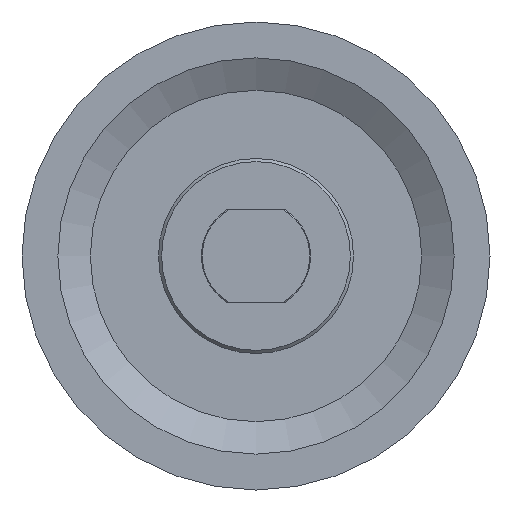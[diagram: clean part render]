
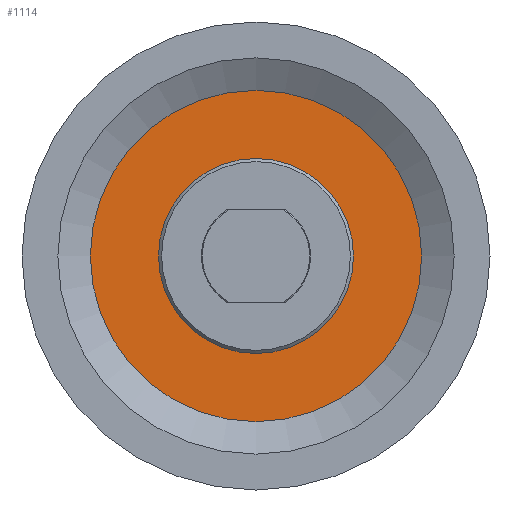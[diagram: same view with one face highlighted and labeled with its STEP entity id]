
A CAD part, left-side view. The second image highlights one B-rep face of the part: STEP entity #1114.
In plain terms, the highlighted planar face has unit normal (-1, 0, 0).
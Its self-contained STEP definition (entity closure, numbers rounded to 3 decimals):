
#93=FACE_BOUND('',#352,.T.);
#107=PLANE('',#1371);
#281=FACE_OUTER_BOUND('',#351,.T.);
#351=EDGE_LOOP('',(#856,#857));
#352=EDGE_LOOP('',(#858,#859));
#454=CIRCLE('',#1368,62.5);
#455=CIRCLE('',#1369,62.5);
#456=CIRCLE('',#1372,106.215);
#457=CIRCLE('',#1373,106.215);
#540=VERTEX_POINT('',#1974);
#541=VERTEX_POINT('',#1975);
#542=VERTEX_POINT('',#1982);
#543=VERTEX_POINT('',#1983);
#658=EDGE_CURVE('',#540,#541,#454,.T.);
#659=EDGE_CURVE('',#541,#540,#455,.T.);
#662=EDGE_CURVE('',#542,#543,#456,.T.);
#663=EDGE_CURVE('',#543,#542,#457,.T.);
#856=ORIENTED_EDGE('',*,*,#662,.F.);
#857=ORIENTED_EDGE('',*,*,#663,.F.);
#858=ORIENTED_EDGE('',*,*,#658,.T.);
#859=ORIENTED_EDGE('',*,*,#659,.T.);
#1114=ADVANCED_FACE('',(#281,#93),#107,.T.);
#1368=AXIS2_PLACEMENT_3D('',#1976,#1598,#1599);
#1369=AXIS2_PLACEMENT_3D('',#1977,#1600,#1601);
#1371=AXIS2_PLACEMENT_3D('',#1981,#1606,#1607);
#1372=AXIS2_PLACEMENT_3D('',#1984,#1608,#1609);
#1373=AXIS2_PLACEMENT_3D('',#1985,#1610,#1611);
#1598=DIRECTION('center_axis',(1.,0.,0.));
#1599=DIRECTION('ref_axis',(0.,0.,-1.));
#1600=DIRECTION('center_axis',(1.,0.,0.));
#1601=DIRECTION('ref_axis',(0.,0.,-1.));
#1606=DIRECTION('center_axis',(-1.,0.,0.));
#1607=DIRECTION('ref_axis',(0.,0.,1.));
#1608=DIRECTION('center_axis',(1.,0.,0.));
#1609=DIRECTION('ref_axis',(0.,0.,-1.));
#1610=DIRECTION('center_axis',(1.,0.,0.));
#1611=DIRECTION('ref_axis',(0.,0.,-1.));
#1974=CARTESIAN_POINT('',(-8.,62.5,0.));
#1975=CARTESIAN_POINT('',(-8.,-62.5,0.));
#1976=CARTESIAN_POINT('Origin',(-8.,0.,0.));
#1977=CARTESIAN_POINT('Origin',(-8.,0.,0.));
#1981=CARTESIAN_POINT('Origin',(-8.,106.215,0.));
#1982=CARTESIAN_POINT('',(-8.,106.215,0.));
#1983=CARTESIAN_POINT('',(-8.,-106.215,0.));
#1984=CARTESIAN_POINT('Origin',(-8.,0.,0.));
#1985=CARTESIAN_POINT('Origin',(-8.,0.,0.));
